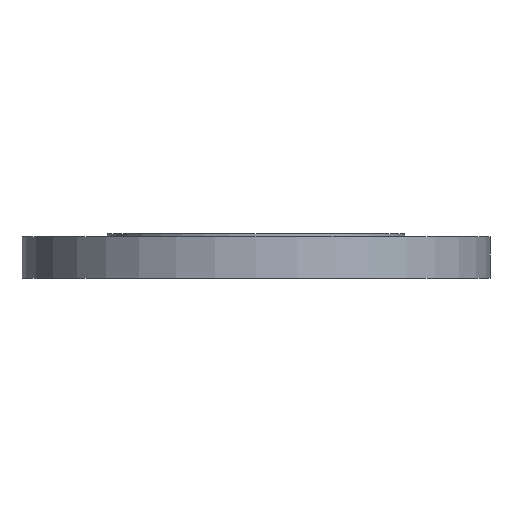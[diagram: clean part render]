
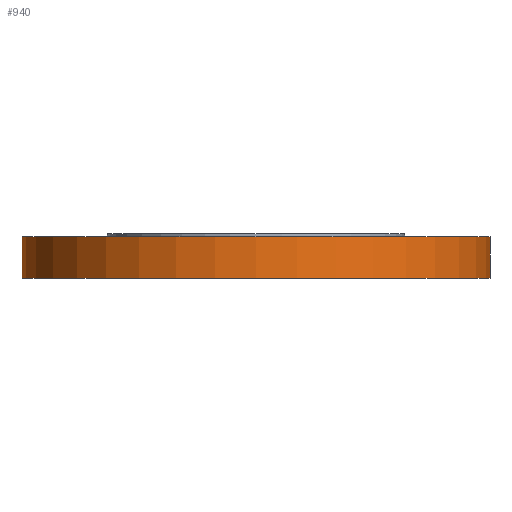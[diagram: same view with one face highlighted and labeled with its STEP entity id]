
A CAD part, front view. The second image highlights one B-rep face of the part: STEP entity #940.
In plain terms, the highlighted cylindrical face has radius 187.5 mm (diameter 375 mm), a partial arc.
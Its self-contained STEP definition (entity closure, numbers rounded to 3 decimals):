
#46 = CIRCLE ( 'NONE', #811, 187.5 ) ;
#63 = LINE ( 'NONE', #509, #662 ) ;
#98 = VERTEX_POINT ( 'NONE', #1074 ) ;
#117 = VECTOR ( 'NONE', #1039, 1000. ) ;
#178 = CARTESIAN_POINT ( 'NONE',  ( 0., 0., -98. ) ) ;
#197 = LINE ( 'NONE', #661, #117 ) ;
#225 = VERTEX_POINT ( 'NONE', #1022 ) ;
#300 = EDGE_CURVE ( 'NONE', #1168, #314, #197, .T. ) ;
#314 = VERTEX_POINT ( 'NONE', #883 ) ;
#322 = ORIENTED_EDGE ( 'NONE', *, *, #964, .T. ) ;
#388 = AXIS2_PLACEMENT_3D ( 'NONE', #178, #642, #1025 ) ;
#393 = AXIS2_PLACEMENT_3D ( 'NONE', #946, #1259, #400 ) ;
#400 = DIRECTION ( 'NONE',  ( -1., 0., 0. ) ) ;
#439 = DIRECTION ( 'NONE',  ( 0., 0., -1. ) ) ;
#509 = CARTESIAN_POINT ( 'NONE',  ( -187.5, 0., -98. ) ) ;
#528 = EDGE_LOOP ( 'NONE', ( #967, #890, #1207, #322 ) ) ;
#642 = DIRECTION ( 'NONE',  ( 0., 0., 1. ) ) ;
#661 = CARTESIAN_POINT ( 'NONE',  ( 187.5, 0., -98. ) ) ;
#662 = VECTOR ( 'NONE', #941, 1000. ) ;
#686 = CIRCLE ( 'NONE', #393, 187.5 ) ;
#693 = EDGE_CURVE ( 'NONE', #1168, #225, #46, .T. ) ;
#757 = FACE_OUTER_BOUND ( 'NONE', #528, .T. ) ;
#811 = AXIS2_PLACEMENT_3D ( 'NONE', #1280, #439, #903 ) ;
#883 = CARTESIAN_POINT ( 'NONE',  ( 187.5, 0., -2.5 ) ) ;
#890 = ORIENTED_EDGE ( 'NONE', *, *, #693, .F. ) ;
#903 = DIRECTION ( 'NONE',  ( -1., 0., 0. ) ) ;
#927 = EDGE_CURVE ( 'NONE', #225, #98, #63, .T. ) ;
#940 = ADVANCED_FACE ( 'NONE', ( #757 ), #1104, .T. ) ;
#941 = DIRECTION ( 'NONE',  ( 0., 0., 1. ) ) ;
#946 = CARTESIAN_POINT ( 'NONE',  ( 0., 0., -2.5 ) ) ;
#964 = EDGE_CURVE ( 'NONE', #314, #98, #686, .T. ) ;
#967 = ORIENTED_EDGE ( 'NONE', *, *, #927, .F. ) ;
#986 = CARTESIAN_POINT ( 'NONE',  ( 187.5, 0., -36. ) ) ;
#1022 = CARTESIAN_POINT ( 'NONE',  ( -187.5, 0., -36. ) ) ;
#1025 = DIRECTION ( 'NONE',  ( 1., 0., 0. ) ) ;
#1039 = DIRECTION ( 'NONE',  ( 0., 0., 1. ) ) ;
#1074 = CARTESIAN_POINT ( 'NONE',  ( -187.5, 0., -2.5 ) ) ;
#1104 = CYLINDRICAL_SURFACE ( 'NONE', #388, 187.5 ) ;
#1168 = VERTEX_POINT ( 'NONE', #986 ) ;
#1207 = ORIENTED_EDGE ( 'NONE', *, *, #300, .T. ) ;
#1259 = DIRECTION ( 'NONE',  ( 0., 0., -1. ) ) ;
#1280 = CARTESIAN_POINT ( 'NONE',  ( 0., 0., -36. ) ) ;
